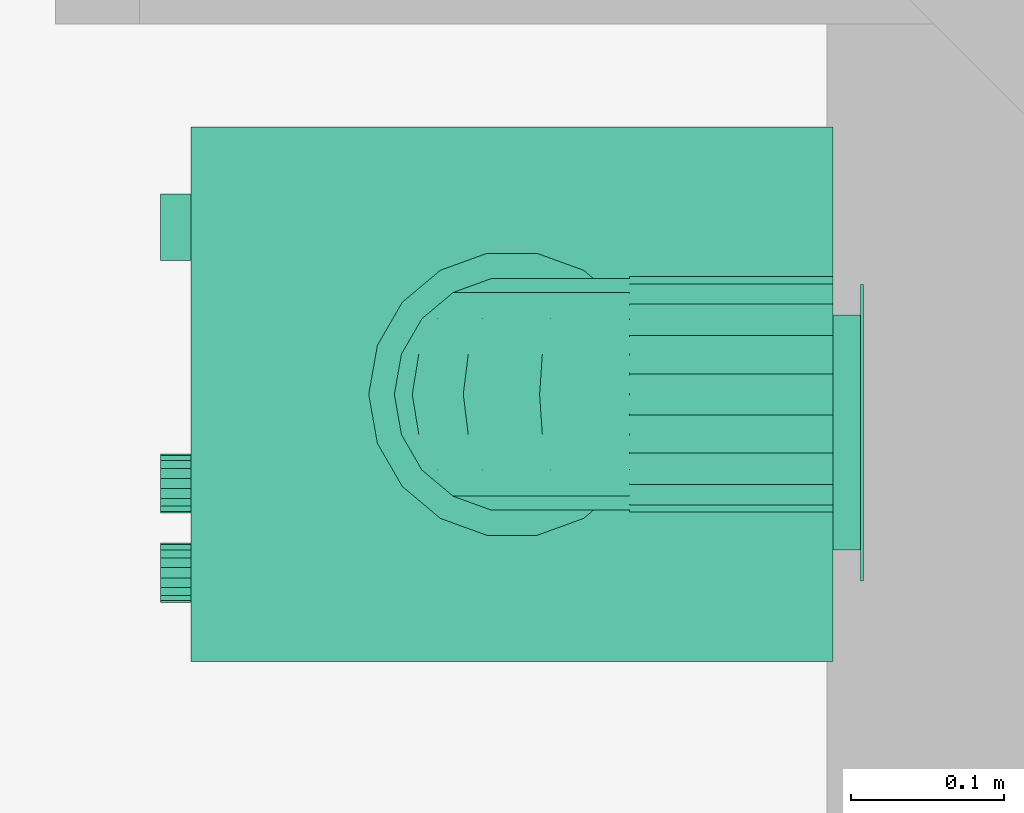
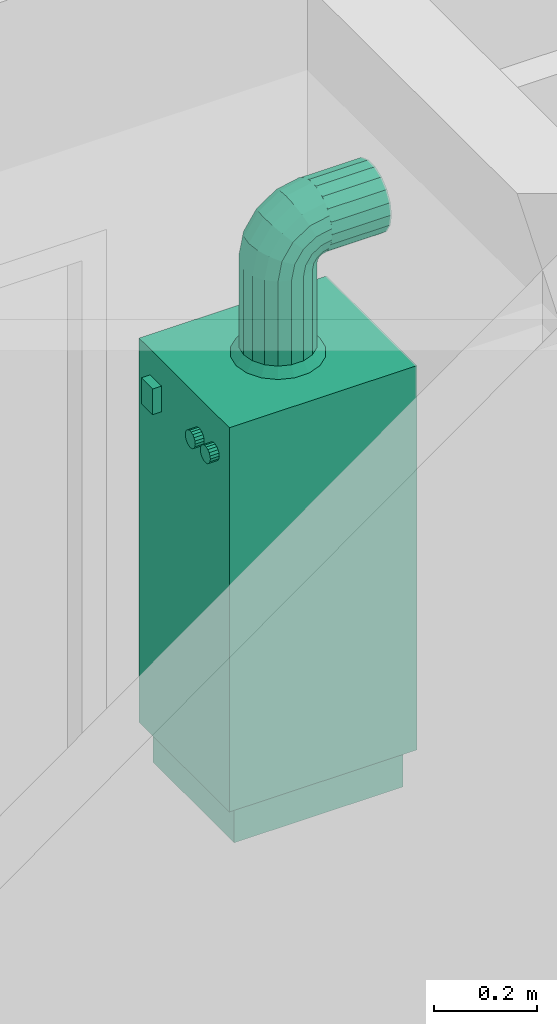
# One storey, part 109 of 164: 1 distribution element.
"""IFC2X3 building model written with IfcOpenShell, lengths in millimetres."""

from ifc_helpers import new_model, entity, si_unit, converted_unit, derived_unit, money_unit, direction, frame, origin_with_axes, place, context, subcontext, project, spatial, open_shell, faceted_brep, surface_model, source, transform, mapped, type_object, element, save


model = new_model("IFC2X3")

# Units and contexts
model_context = context("Model", 3, precision=0.01, world=origin_with_axes(), true_north=direction((0.0, 1.0)))
body_context = subcontext(model_context, "Body", "Model", "MODEL_VIEW")
ifc_project = project(units=[si_unit("LENGTHUNIT", "METRE", prefix="MILLI"), si_unit("AREAUNIT", "SQUARE_METRE"), si_unit("VOLUMEUNIT", "CUBIC_METRE"), converted_unit("PLANEANGLEUNIT", "DEGREE", entity("IfcPlaneAngleMeasure", 0.0174532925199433), si_unit("PLANEANGLEUNIT", "RADIAN"), dimensions=[0, 0, 0, 0, 0, 0, 0]), money_unit("USD"), converted_unit("TIMEUNIT", "Year", entity("IfcTimeMeasure", 31557600.0), si_unit("TIMEUNIT", "SECOND"), dimensions=[0, 0, 1, 0, 0, 0, 0]), si_unit("MASSUNIT", "GRAM", prefix="KILO"), si_unit("THERMODYNAMICTEMPERATUREUNIT", "DEGREE_CELSIUS"), si_unit("LUMINOUSINTENSITYUNIT", "LUMEN"), si_unit("ENERGYUNIT", "JOULE", prefix="MEGA"), derived_unit("THERMALCONDUCTANCEUNIT", [(si_unit("POWERUNIT", "WATT"), 1), (si_unit("LENGTHUNIT", "METRE"), -1), (si_unit("THERMODYNAMICTEMPERATUREUNIT", "KELVIN"), -1)]), derived_unit("SPECIFICHEATCAPACITYUNIT", [(si_unit("ENERGYUNIT", "JOULE"), 1), (si_unit("MASSUNIT", "GRAM", prefix="KILO"), -1), (si_unit("THERMODYNAMICTEMPERATUREUNIT", "KELVIN"), -1)]), derived_unit("MASSDENSITYUNIT", [(si_unit("MASSUNIT", "GRAM", prefix="KILO"), 1), (si_unit("VOLUMEUNIT", "CUBIC_METRE"), -1)])], contexts=[model_context])

# Site, building, storey
site_placement = place(None, origin_with_axes())
site = spatial("IfcSite", under=ifc_project, at=site_placement, Name="Site", CompositionType="ELEMENT")
building_placement = place(site_placement, origin_with_axes())
building = spatial("IfcBuilding", under=site, at=building_placement, Name="Bâtiment", CompositionType="ELEMENT")
storey_placement = place(building_placement, frame((0.0, 0.0, 5750.0), z_axis=(0.0, 0.0, 1.0), x_axis=(1.0, 0.0, 0.0)))
storey = spatial("IfcBuildingStorey", under=building, at=storey_placement, Name="Etage1", CompositionType="ELEMENT", Elevation=5750.0)

# Distribution element
distribution_element_type = type_object("IfcDistributionElementType", Name="Chaudière à gaz 27")
shared_shape = source(origin_with_axes(), body_context, "Body", "SurfaceModel", [
    surface_model("IfcShellBasedSurfaceModel", [(200.0, 420.0, 34.90909090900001), (180.0709335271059, 420.0, 37.53280228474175), (180.0709335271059, 438.0, 37.53280228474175), (200.0, 438.0, 34.90909090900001), (161.5, 420.0, 45.22513481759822), (161.5, 438.0, 45.22513481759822), (219.9290664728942, 420.0, 37.53280228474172), (219.9290664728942, 438.0, 37.53280228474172), (145.5527778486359, 420.0, 57.46186875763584), (145.5527778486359, 438.0, 57.46186875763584), (238.5000000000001, 420.0, 45.22513481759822), (238.5000000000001, 438.0, 45.22513481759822), (133.3160439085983, 420.0, 73.409090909), (133.3160439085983, 438.0, 73.409090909), (254.4472221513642, 420.0, 57.46186875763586), (254.4472221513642, 438.0, 57.46186875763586), (125.6237113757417, 420.0, 91.9800244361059), (125.6237113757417, 438.0, 91.9800244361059), (266.6839560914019, 420.0, 73.40909090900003), (266.6839560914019, 438.0, 73.40909090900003), (123.0, 420.0, 111.909090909), (123.0, 438.0, 111.909090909), (274.3762886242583, 420.0, 91.98002443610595), (274.3762886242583, 438.0, 91.98002443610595), (125.6237113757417, 420.0, 131.8381573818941), (125.6237113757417, 438.0, 131.8381573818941), (277.0, 420.0, 111.909090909), (277.0, 438.0, 111.909090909), (133.3160439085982, 420.0, 150.409090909), (133.3160439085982, 438.0, 150.409090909), (274.3762886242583, 420.0, 131.8381573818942), (274.3762886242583, 438.0, 131.8381573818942), (145.5527778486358, 420.0, 166.3563130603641), (145.5527778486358, 438.0, 166.3563130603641), (266.6839560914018, 420.0, 150.4090909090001), (266.6839560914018, 438.0, 150.4090909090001), (161.5, 420.0, 178.5930470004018), (161.5, 438.0, 178.5930470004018), (254.4472221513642, 420.0, 166.3563130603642), (254.4472221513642, 438.0, 166.3563130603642), (180.0709335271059, 420.0, 186.2853795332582), (180.0709335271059, 438.0, 186.2853795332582), (238.5, 420.0, 178.5930470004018), (238.5, 438.0, 178.5930470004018), (200.0, 420.0, 188.909090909), (200.0, 438.0, 188.909090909), (219.929066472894, 420.0, 186.2853795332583), (219.929066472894, 438.0, 186.2853795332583)], [open_shell([[[0, 1, 2, 3]], [[1, 4, 5, 2]], [[6, 0, 3, 7]], [[4, 8, 9, 5]], [[10, 6, 7, 11]], [[8, 12, 13, 9]], [[14, 10, 11, 15]], [[12, 16, 17, 13]], [[18, 14, 15, 19]], [[16, 20, 21, 17]], [[22, 18, 19, 23]], [[20, 24, 25, 21]], [[26, 22, 23, 27]], [[24, 28, 29, 25]], [[30, 26, 27, 31]], [[28, 32, 33, 29]], [[34, 30, 31, 35]], [[32, 36, 37, 33]], [[38, 34, 35, 39]], [[36, 40, 41, 37]], [[42, 38, 39, 43]], [[40, 44, 45, 41]], [[46, 42, 43, 47]], [[44, 46, 47, 45]]])]),
    faceted_brep([(200.0, 438.0, 14.909090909), (174.8945526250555, 438.0, 18.21428575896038), (174.8945526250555, 440.0, 18.21428575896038), (200.0, 440.0, 14.909090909), (225.1054473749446, 438.0, 18.21428575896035), (248.5000000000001, 438.0, 27.90462674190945), (268.5893577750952, 438.0, 43.31973313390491), (284.0044641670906, 438.0, 63.40909090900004), (293.6948051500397, 438.0, 86.80364353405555), (297.0000000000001, 438.0, 111.909090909), (293.6948051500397, 438.0, 137.0145382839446), (284.0044641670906, 438.0, 160.4090909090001), (268.5893577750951, 438.0, 180.4984486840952), (248.5, 438.0, 195.9135550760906), (225.1054473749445, 438.0, 205.6038960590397), (199.9999999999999, 438.0, 208.909090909), (174.8945526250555, 438.0, 205.6038960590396), (151.5, 438.0, 195.9135550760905), (131.4106422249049, 438.0, 180.4984486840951), (115.9955358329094, 438.0, 160.409090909), (106.3051948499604, 438.0, 137.0145382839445), (103.0, 438.0, 111.909090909), (106.3051948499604, 438.0, 86.80364353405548), (115.9955358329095, 438.0, 63.40909090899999), (131.4106422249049, 438.0, 43.31973313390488), (151.5, 438.0, 27.90462674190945), (200.0, 438.0, 34.90909090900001), (180.0709335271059, 438.0, 37.53280228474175), (161.5, 438.0, 45.22513481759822), (145.5527778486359, 438.0, 57.46186875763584), (133.3160439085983, 438.0, 73.409090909), (125.6237113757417, 438.0, 91.9800244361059), (123.0, 438.0, 111.909090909), (125.6237113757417, 438.0, 131.8381573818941), (133.3160439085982, 438.0, 150.409090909), (145.5527778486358, 438.0, 166.3563130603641), (161.5, 438.0, 178.5930470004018), (180.0709335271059, 438.0, 186.2853795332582), (200.0, 438.0, 188.909090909), (219.929066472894, 438.0, 186.2853795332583), (238.5, 438.0, 178.5930470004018), (254.4472221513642, 438.0, 166.3563130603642), (266.6839560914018, 438.0, 150.4090909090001), (274.3762886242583, 438.0, 131.8381573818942), (277.0, 438.0, 111.909090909), (274.3762886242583, 438.0, 91.98002443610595), (266.6839560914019, 438.0, 73.40909090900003), (254.4472221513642, 438.0, 57.46186875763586), (238.5000000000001, 438.0, 45.22513481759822), (219.9290664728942, 438.0, 37.53280228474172), (151.5, 440.0, 27.90462674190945), (131.4106422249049, 440.0, 43.31973313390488), (115.9955358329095, 440.0, 63.40909090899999), (106.3051948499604, 440.0, 86.80364353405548), (103.0, 440.0, 111.909090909), (106.3051948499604, 440.0, 137.0145382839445), (115.9955358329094, 440.0, 160.409090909), (131.4106422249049, 440.0, 180.4984486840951), (151.5, 440.0, 195.9135550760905), (174.8945526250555, 440.0, 205.6038960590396), (199.9999999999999, 440.0, 208.909090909), (225.1054473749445, 440.0, 205.6038960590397), (248.5, 440.0, 195.9135550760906), (268.5893577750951, 440.0, 180.4984486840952), (284.0044641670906, 440.0, 160.4090909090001), (293.6948051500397, 440.0, 137.0145382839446), (297.0000000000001, 440.0, 111.909090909), (293.6948051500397, 440.0, 86.80364353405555), (284.0044641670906, 440.0, 63.40909090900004), (268.5893577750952, 440.0, 43.31973313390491), (248.5000000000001, 440.0, 27.90462674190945), (225.1054473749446, 440.0, 18.21428575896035), (200.0, 440.0, 34.90909090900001), (219.9290664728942, 440.0, 37.53280228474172), (238.5000000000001, 440.0, 45.22513481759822), (254.4472221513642, 440.0, 57.46186875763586), (266.6839560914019, 440.0, 73.40909090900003), (274.3762886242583, 440.0, 91.98002443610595), (277.0, 440.0, 111.909090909), (274.3762886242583, 440.0, 131.8381573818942), (266.6839560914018, 440.0, 150.4090909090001), (254.4472221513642, 440.0, 166.3563130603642), (238.5, 440.0, 178.5930470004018), (219.929066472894, 440.0, 186.2853795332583), (200.0, 440.0, 188.909090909), (180.0709335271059, 440.0, 186.2853795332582), (161.5, 440.0, 178.5930470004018), (145.5527778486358, 440.0, 166.3563130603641), (133.3160439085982, 440.0, 150.409090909), (125.6237113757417, 440.0, 131.8381573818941), (123.0, 440.0, 111.909090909), (125.6237113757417, 440.0, 91.9800244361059), (133.3160439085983, 440.0, 73.409090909), (145.5527778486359, 440.0, 57.46186875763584), (161.5, 440.0, 45.22513481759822), (180.0709335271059, 440.0, 37.53280228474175)], [[[0, 1, 2, 3]], [[0, 4, 5, 6, 7, 8, 9, 10, 11, 12, 13, 14, 15, 16, 17, 18, 19, 20, 21, 22, 23, 24, 25, 1], [26, 27, 28, 29, 30, 31, 32, 33, 34, 35, 36, 37, 38, 39, 40, 41, 42, 43, 44, 45, 46, 47, 48, 49]], [[1, 25, 50, 2]], [[3, 2, 50, 51, 52, 53, 54, 55, 56, 57, 58, 59, 60, 61, 62, 63, 64, 65, 66, 67, 68, 69, 70, 71], [72, 73, 74, 75, 76, 77, 78, 79, 80, 81, 82, 83, 84, 85, 86, 87, 88, 89, 90, 91, 92, 93, 94, 95]], [[4, 0, 3, 71]], [[5, 4, 71, 70]], [[6, 5, 70, 69]], [[7, 6, 69, 68]], [[8, 7, 68, 67]], [[9, 8, 67, 66]], [[10, 9, 66, 65]], [[11, 10, 65, 64]], [[12, 11, 64, 63]], [[13, 12, 63, 62]], [[14, 13, 62, 61]], [[15, 14, 61, 60]], [[16, 15, 60, 59]], [[17, 16, 59, 58]], [[18, 17, 58, 57]], [[19, 18, 57, 56]], [[20, 19, 56, 55]], [[21, 20, 55, 54]], [[22, 21, 54, 53]], [[23, 22, 53, 52]], [[24, 23, 52, 51]], [[25, 24, 51, 50]], [[27, 26, 72, 95]], [[28, 27, 95, 94]], [[29, 28, 94, 93]], [[30, 29, 93, 92]], [[31, 30, 92, 91]], [[32, 31, 91, 90]], [[33, 32, 90, 89]], [[34, 33, 89, 88]], [[35, 34, 88, 87]], [[36, 35, 87, 86]], [[37, 36, 86, 85]], [[38, 37, 85, 84]], [[39, 38, 84, 83]], [[40, 39, 83, 82]], [[41, 40, 82, 81]], [[42, 41, 81, 80]], [[43, 42, 80, 79]], [[44, 43, 79, 78]], [[45, 44, 78, 77]], [[46, 45, 77, 76]], [[47, 46, 76, 75]], [[48, 47, 75, 74]], [[49, 48, 74, 73]], [[26, 49, 73, 72]]]),
    faceted_brep([(332.5, 21.0, 0.0), (17.5, 21.0, 0.0), (17.5, 399.0, 0.0), (332.5, 399.0, 0.0), (332.5, 21.0, 90.9090909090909), (17.5, 21.0, 90.9090909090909), (17.5, 399.0, 90.9090909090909), (332.5, 399.0, 90.9090909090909)], [[[0, 1, 2, 3]], [[1, 0, 4, 5]], [[2, 1, 5, 6]], [[3, 2, 6, 7]], [[0, 3, 7, 4]], [[5, 4, 7, 6]]]),
    faceted_brep([(0.0, 420.0, 90.9090909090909), (0.0, 420.0, 1000.0), (349.9999999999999, 420.0, 1000.0), (350.0, 420.0, 90.90909090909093), (0.0, 0.0, 90.9090909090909), (0.0, 0.0, 818.1818181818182), (0.0, 21.0, 818.1818181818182), (0.0, 21.0, 1000.0), (349.9999999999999, 21.0, 1000.0), (349.9999999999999, 21.0, 818.1818181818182), (349.9999999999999, 0.0, 818.1818181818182), (350.0, 0.0, 90.90909090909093)], [[[0, 1, 2, 3]], [[0, 4, 5, 6, 7, 1]], [[1, 7, 8, 2]], [[3, 2, 8, 9, 10, 11]], [[4, 0, 3, 11]], [[5, 4, 11, 10]], [[6, 5, 10, 9]], [[7, 6, 9, 8]]]),
    faceted_brep([(350.0, 0.0, 818.1818181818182), (0.0, 0.0, 818.1818181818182), (0.0, 21.0, 818.1818181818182), (350.0, 21.0, 818.1818181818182), (350.0, 0.0, 1000.0), (0.0, 0.0, 1000.0), (0.0, 21.0, 1000.0), (350.0, 21.0, 1000.0)], [[[0, 1, 2, 3]], [[1, 0, 4, 5]], [[2, 1, 5, 6]], [[3, 2, 6, 7]], [[0, 3, 7, 4]], [[5, 4, 7, 6]]]),
    faceted_brep([(251.6051342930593, 0.0, 902.4405174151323), (248.2286419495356, 0.0, 896.592261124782), (243.0555555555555, 0.0, 892.2515262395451), (236.709825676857, 0.0, 889.9418694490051), (229.9568409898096, 0.0, 889.9418694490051), (223.6111111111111, 0.0, 892.2515262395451), (218.438024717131, 0.0, 896.5922611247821), (215.0615323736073, 0.0, 902.4405174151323), (213.8888888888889, 0.0, 909.0909090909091), (215.0615323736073, 0.0, 915.741300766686), (218.438024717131, 0.0, 921.5895570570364), (223.6111111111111, 0.0, 925.9302919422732), (229.9568409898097, 0.0, 928.2399487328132), (236.709825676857, 0.0, 928.2399487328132), (243.0555555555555, 0.0, 925.9302919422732), (248.2286419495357, 0.0, 921.5895570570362), (251.6051342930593, 0.0, 915.741300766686), (252.7777777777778, 0.0, 909.0909090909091), (251.6051342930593, -19.99999999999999, 902.4405174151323), (248.2286419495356, -19.99999999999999, 896.592261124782), (243.0555555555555, -19.99999999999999, 892.2515262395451), (236.709825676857, -19.99999999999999, 889.9418694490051), (229.9568409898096, -19.99999999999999, 889.9418694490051), (223.6111111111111, -19.99999999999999, 892.2515262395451), (218.438024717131, -19.99999999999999, 896.5922611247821), (215.0615323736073, -19.99999999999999, 902.4405174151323), (213.8888888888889, -19.99999999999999, 909.0909090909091), (215.0615323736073, -19.99999999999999, 915.741300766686), (218.438024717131, -19.99999999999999, 921.5895570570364), (223.6111111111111, -19.99999999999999, 925.9302919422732), (229.9568409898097, -19.99999999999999, 928.2399487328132), (236.709825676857, -19.99999999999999, 928.2399487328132), (243.0555555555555, -19.99999999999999, 925.9302919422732), (248.2286419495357, -19.99999999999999, 921.5895570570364), (251.6051342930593, -19.99999999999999, 915.741300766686), (252.7777777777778, -19.99999999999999, 909.0909090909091)], [[[0, 1, 2, 3, 4, 5, 6, 7, 8, 9, 10, 11, 12, 13, 14, 15, 16, 17]], [[1, 0, 18, 19]], [[2, 1, 19, 20]], [[3, 2, 20, 21]], [[4, 3, 21, 22]], [[5, 4, 22, 23]], [[6, 5, 23, 24]], [[7, 6, 24, 25]], [[8, 7, 25, 26]], [[9, 8, 26, 27]], [[10, 9, 27, 28]], [[11, 10, 28, 29]], [[12, 11, 29, 30]], [[13, 12, 30, 31]], [[14, 13, 31, 32]], [[15, 14, 32, 33]], [[16, 15, 33, 34]], [[17, 16, 34, 35]], [[0, 17, 35, 18]], [[18, 35, 34, 33, 32, 31, 30, 29, 28, 27, 26, 25, 24, 23, 22, 21, 20, 19]]]),
    faceted_brep([(309.9384676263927, 0.0, 902.4405174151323), (306.561975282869, 0.0, 896.592261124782), (301.3888888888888, 0.0, 892.2515262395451), (295.0431590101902, 0.0, 889.9418694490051), (288.290174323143, 0.0, 889.9418694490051), (281.9444444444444, 0.0, 892.2515262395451), (276.7713580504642, 0.0, 896.5922611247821), (273.3948657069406, 0.0, 902.4405174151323), (272.2222222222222, 0.0, 909.0909090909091), (273.3948657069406, 0.0, 915.741300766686), (276.7713580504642, 0.0, 921.5895570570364), (281.9444444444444, 0.0, 925.9302919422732), (288.290174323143, 0.0, 928.2399487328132), (295.0431590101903, 0.0, 928.2399487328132), (301.3888888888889, 0.0, 925.9302919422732), (306.561975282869, 0.0, 921.5895570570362), (309.9384676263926, 0.0, 915.741300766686), (311.1111111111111, 0.0, 909.0909090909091), (309.9384676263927, -19.99999999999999, 902.4405174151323), (306.561975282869, -19.99999999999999, 896.592261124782), (301.3888888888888, -19.99999999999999, 892.2515262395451), (295.0431590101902, -19.99999999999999, 889.9418694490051), (288.290174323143, -19.99999999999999, 889.9418694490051), (281.9444444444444, -19.99999999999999, 892.2515262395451), (276.7713580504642, -19.99999999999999, 896.5922611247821), (273.3948657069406, -19.99999999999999, 902.4405174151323), (272.2222222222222, -19.99999999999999, 909.0909090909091), (273.3948657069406, -19.99999999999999, 915.741300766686), (276.7713580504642, -19.99999999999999, 921.5895570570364), (281.9444444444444, -19.99999999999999, 925.9302919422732), (288.290174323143, -19.99999999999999, 928.2399487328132), (295.0431590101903, -19.99999999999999, 928.2399487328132), (301.3888888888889, -19.99999999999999, 925.9302919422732), (306.561975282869, -19.99999999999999, 921.5895570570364), (309.9384676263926, -19.99999999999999, 915.741300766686), (311.1111111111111, -19.99999999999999, 909.0909090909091)], [[[0, 1, 2, 3, 4, 5, 6, 7, 8, 9, 10, 11, 12, 13, 14, 15, 16, 17]], [[1, 0, 18, 19]], [[2, 1, 19, 20]], [[3, 2, 20, 21]], [[4, 3, 21, 22]], [[5, 4, 22, 23]], [[6, 5, 23, 24]], [[7, 6, 24, 25]], [[8, 7, 25, 26]], [[9, 8, 26, 27]], [[10, 9, 27, 28]], [[11, 10, 28, 29]], [[12, 11, 29, 30]], [[13, 12, 30, 31]], [[14, 13, 31, 32]], [[15, 14, 32, 33]], [[16, 15, 33, 34]], [[17, 16, 34, 35]], [[0, 17, 35, 18]], [[18, 35, 34, 33, 32, 31, 30, 29, 28, 27, 26, 25, 24, 23, 22, 21, 20, 19]]]),
    faceted_brep([(87.5, 0.0, 878.7878787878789), (43.75, 0.0, 878.7878787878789), (43.75, 0.0, 939.3939393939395), (87.5, 0.0, 939.3939393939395), (87.5, -20.0, 878.7878787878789), (43.75, -20.0, 878.7878787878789), (43.75, -19.99999999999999, 939.3939393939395), (87.5, -19.99999999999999, 939.3939393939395)], [[[0, 1, 2, 3]], [[1, 0, 4, 5]], [[2, 1, 5, 6]], [[3, 2, 6, 7]], [[0, 3, 7, 4]], [[5, 4, 7, 6]]]),
    surface_model("IfcShellBasedSurfaceModel", [(148.6644489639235, 282.356331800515, 1220.0), (175.0, 287.0, 1220.0), (175.0, 287.0, 1020.0), (148.6644489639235, 282.356331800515, 1020.0), (201.3355510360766, 282.356331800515, 1220.0), (201.3355510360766, 282.356331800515, 1020.0), (175.0, 303.7499999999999, 1000.0), (142.9356115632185, 298.0961831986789, 1000.0), (125.5053540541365, 268.9854221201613, 1220.0), (125.5053540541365, 268.9854221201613, 1020.0), (224.4946459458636, 268.9854221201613, 1220.0), (224.4946459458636, 268.9854221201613, 1020.0), (207.0643884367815, 298.0961831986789, 1000.0), (114.7386615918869, 281.8166665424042, 1000.0), (108.3160439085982, 248.5, 1220.0), (108.3160439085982, 248.5, 1020.0), (241.6839560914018, 248.4999999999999, 1220.0), (241.6839560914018, 248.4999999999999, 1020.0), (235.2613384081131, 281.8166665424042, 1000.0), (93.81011839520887, 256.8749999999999, 1000.0), (99.16980301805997, 223.3709096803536, 1220.0), (99.16980301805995, 223.3709096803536, 1020.0), (250.8301969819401, 223.3709096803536, 1220.0), (250.83019698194, 223.3709096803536, 1020.0), (256.1898816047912, 256.8749999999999, 1000.0), (82.6742731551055, 226.2795166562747, 1000.0), (99.16980301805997, 196.6290903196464, 1220.0), (99.16980301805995, 196.6290903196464, 1020.0), (250.83019698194, 196.6290903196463, 1220.0), (250.83019698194, 196.6290903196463, 1020.0), (267.3257268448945, 226.2795166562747, 1000.0), (82.67427315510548, 193.7204833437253, 1000.0), (108.3160439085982, 171.5, 1220.0), (108.3160439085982, 171.5, 1020.0), (241.6839560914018, 171.4999999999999, 1220.0), (241.6839560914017, 171.4999999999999, 1020.0), (267.3257268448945, 193.7204833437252, 1000.0), (93.81011839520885, 163.125, 1000.0), (125.5053540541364, 151.0145778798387, 1220.0), (125.5053540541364, 151.0145778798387, 1020.0), (224.4946459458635, 151.0145778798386, 1220.0), (224.4946459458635, 151.0145778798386, 1020.0), (256.1898816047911, 163.1249999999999, 1000.0), (114.7386615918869, 138.1833334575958, 1000.0), (148.6644489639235, 137.643668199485, 1220.0), (148.6644489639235, 137.643668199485, 1020.0), (201.3355510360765, 137.643668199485, 1220.0), (201.3355510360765, 137.643668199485, 1020.0), (235.261338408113, 138.1833334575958, 1000.0), (142.9356115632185, 121.9038168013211, 1000.0), (175.0, 133.0, 1220.0), (175.0, 133.0, 1020.0), (207.0643884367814, 121.9038168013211, 1000.0), (175.0, 116.25, 1000.0)], [open_shell([[[0, 1, 2, 3]], [[1, 4, 5, 2]], [[3, 2, 6, 7]], [[8, 0, 3, 9]], [[4, 10, 11, 5]], [[2, 5, 12, 6]], [[9, 3, 7, 13]], [[14, 8, 9, 15]], [[10, 16, 17, 11]], [[5, 11, 18, 12]], [[15, 9, 13, 19]], [[20, 14, 15, 21]], [[16, 22, 23, 17]], [[11, 17, 24, 18]], [[21, 15, 19, 25]], [[26, 20, 21, 27]], [[22, 28, 29, 23]], [[17, 23, 30, 24]], [[27, 21, 25, 31]], [[32, 26, 27, 33]], [[28, 34, 35, 29]], [[23, 29, 36, 30]], [[33, 27, 31, 37]], [[38, 32, 33, 39]], [[34, 40, 41, 35]], [[29, 35, 42, 36]], [[39, 33, 37, 43]], [[44, 38, 39, 45]], [[40, 46, 47, 41]], [[35, 41, 48, 42]], [[45, 39, 43, 49]], [[50, 44, 45, 51]], [[46, 50, 51, 47]], [[41, 47, 52, 48]], [[51, 45, 49, 53]], [[47, 51, 53, 52]]])]),
    faceted_brep([(99.16980301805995, 203.5081662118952, 1254.583449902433), (99.16980301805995, 196.6290903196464, 1220.0), (108.3160439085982, 171.5, 1220.0), (108.3160439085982, 180.2919139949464, 1264.199936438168), (99.16980301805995, 228.2143857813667, 1244.349798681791), (99.16980301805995, 223.3709096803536, 1220.0), (108.3160439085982, 248.5, 1220.0), (125.5053540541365, 268.9854221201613, 1220.0), (148.6644489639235, 282.356331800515, 1220.0), (175.0, 287.0, 1220.0), (201.3355510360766, 282.356331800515, 1220.0), (224.4946459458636, 268.9854221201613, 1220.0), (241.6839560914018, 248.4999999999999, 1220.0), (250.83019698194, 223.3709096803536, 1220.0), (250.83019698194, 196.6290903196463, 1220.0), (241.6839560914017, 171.4999999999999, 1220.0), (224.4946459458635, 151.0145778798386, 1220.0), (201.3355510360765, 137.643668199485, 1220.0), (175.0, 132.9999999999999, 1220.0), (148.6644489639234, 137.643668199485, 1220.0), (125.5053540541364, 151.0145778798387, 1220.0), (125.5053540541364, 161.3658517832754, 1272.039368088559), (99.16980301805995, 223.098116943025, 1283.901883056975), (108.3160439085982, 205.3291667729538, 1301.670833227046), (99.16980301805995, 242.0074387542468, 1264.992561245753), (108.3160439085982, 251.4306379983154, 1234.733312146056), (125.5053540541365, 270.3567002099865, 1226.893880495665), (148.6644489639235, 282.7098099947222, 1221.777054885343), (201.3355510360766, 282.7098099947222, 1221.777054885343), (224.4946459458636, 270.3567002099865, 1226.893880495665), (241.6839560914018, 251.4306379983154, 1234.733312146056), (250.83019698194, 228.2143857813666, 1244.349798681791), (250.83019698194, 203.5081662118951, 1254.583449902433), (241.6839560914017, 180.2919139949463, 1264.199936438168), (224.4946459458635, 161.3658517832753, 1272.039368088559), (201.3355510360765, 149.0127419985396, 1277.15619369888), (175.0, 144.7225519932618, 1278.933248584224), (148.6644489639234, 149.0127419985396, 1277.15619369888), (125.5053540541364, 190.8437858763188, 1316.156214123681), (108.3160439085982, 242.8000635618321, 1326.708086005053), (99.16980301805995, 252.4165500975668, 1303.491833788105), (99.16980301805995, 262.6502013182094, 1278.785614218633), (108.3160439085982, 259.7763889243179, 1247.223611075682), (125.5053540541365, 274.2617698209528, 1232.738230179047), (148.6644489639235, 283.7164307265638, 1223.283569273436), (201.3355510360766, 283.7164307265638, 1223.283569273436), (224.4946459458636, 274.2617698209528, 1232.738230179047), (241.6839560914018, 259.7763889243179, 1247.223611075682), (250.83019698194, 242.0074387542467, 1264.992561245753), (250.83019698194, 223.0981169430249, 1283.901883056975), (241.6839560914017, 205.3291667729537, 1301.670833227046), (224.4946459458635, 190.8437858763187, 1316.156214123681), (201.3355510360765, 181.3891249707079, 1325.610875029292), (175.0, 178.1055556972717, 1328.894444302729), (148.6644489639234, 181.3891249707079, 1325.610875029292), (125.5053540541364, 234.9606319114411, 1345.634148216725), (108.3160439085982, 287.0000000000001, 1335.5), (99.16980301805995, 287.0000000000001, 1310.370909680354), (99.16980301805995, 287.0000000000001, 1283.629090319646), (108.3160439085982, 272.266687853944, 1255.569362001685), (125.5053540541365, 280.1061195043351, 1236.643299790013), (148.6644489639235, 285.2229451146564, 1224.290190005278), (201.3355510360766, 285.2229451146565, 1224.290190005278), (224.4946459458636, 280.1061195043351, 1236.643299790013), (241.6839560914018, 272.266687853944, 1255.569362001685), (250.83019698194, 262.6502013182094, 1278.785614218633), (250.83019698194, 252.4165500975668, 1303.491833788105), (241.6839560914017, 242.8000635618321, 1326.708086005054), (224.4946459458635, 234.9606319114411, 1345.634148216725), (201.3355510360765, 229.8438063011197, 1357.98725800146), (175.0, 228.0667514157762, 1362.277448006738), (148.6644489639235, 229.8438063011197, 1357.98725800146), (125.5053540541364, 287.0000000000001, 1355.985422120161), (108.3160439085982, 287.0, 1258.5), (148.6644489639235, 287.0000000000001, 1369.356331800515), (175.0, 287.0000000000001, 1374.0), (201.3355510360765, 287.0000000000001, 1369.356331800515), (224.4946459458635, 287.0000000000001, 1355.985422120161), (241.6839560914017, 287.0000000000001, 1335.5), (250.83019698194, 287.0000000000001, 1310.370909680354), (250.83019698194, 287.0000000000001, 1283.629090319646), (241.6839560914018, 287.0, 1258.5), (224.4946459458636, 287.0, 1238.014577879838), (201.3355510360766, 287.0, 1224.643668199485), (148.6644489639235, 287.0, 1224.643668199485), (125.5053540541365, 287.0, 1238.014577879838)], [[[0, 1, 2, 3]], [[1, 0, 4, 5]], [[2, 1, 5, 6, 7, 8, 9, 10, 11, 12, 13, 14, 15, 16, 17, 18, 19, 20]], [[3, 2, 20, 21]], [[22, 0, 3, 23]], [[0, 22, 24, 4]], [[6, 5, 4, 25]], [[26, 7, 6, 25]], [[7, 26, 27, 8]], [[8, 27, 9]], [[28, 10, 9]], [[10, 28, 29, 11]], [[11, 29, 30, 12]], [[31, 13, 12, 30]], [[14, 13, 31, 32]], [[33, 15, 14, 32]], [[15, 33, 34, 16]], [[35, 17, 16, 34]], [[36, 18, 17, 35]], [[19, 18, 36, 37]], [[21, 20, 19, 37]], [[23, 3, 21, 38]], [[22, 23, 39, 40]], [[24, 22, 40, 41]], [[4, 24, 42, 25]], [[43, 26, 25, 42]], [[26, 43, 44, 27]], [[27, 44, 9]], [[45, 28, 9]], [[28, 45, 46, 29]], [[29, 46, 47, 30]], [[31, 30, 47, 48]], [[49, 32, 31, 48]], [[32, 49, 50, 33]], [[51, 34, 33, 50]], [[35, 34, 51, 52]], [[53, 36, 35, 52]], [[54, 37, 36, 53]], [[38, 21, 37, 54]], [[39, 23, 38, 55]], [[40, 39, 56, 57]], [[41, 40, 57, 58]], [[59, 42, 24, 41]], [[42, 59, 60, 43]], [[43, 60, 61, 44]], [[44, 61, 9]], [[62, 45, 9]], [[45, 62, 63, 46]], [[46, 63, 64, 47]], [[65, 48, 47, 64]], [[66, 49, 48, 65]], [[50, 49, 66, 67]], [[68, 51, 50, 67]], [[52, 51, 68, 69]], [[53, 52, 69, 70]], [[71, 54, 53, 70]], [[55, 38, 54, 71]], [[56, 39, 55, 72]], [[73, 58, 57, 56, 72, 74, 75, 76, 77, 78, 79, 80, 81, 82, 83, 9, 84, 85]], [[59, 41, 58, 73]], [[59, 73, 85, 60]], [[60, 85, 84, 61]], [[61, 84, 9]], [[62, 9, 83]], [[63, 62, 83, 82]], [[63, 82, 81, 64]], [[65, 64, 81, 80]], [[66, 65, 80, 79]], [[67, 66, 79, 78]], [[77, 68, 67, 78]], [[68, 77, 76, 69]], [[70, 69, 76, 75]], [[74, 71, 70, 75]], [[72, 55, 71, 74]]]),
    surface_model("IfcShellBasedSurfaceModel", [(102.6436681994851, 420.0, 1323.335551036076), (98.0, 420.0, 1297.0), (97.99999999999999, 287.0, 1297.0), (102.643668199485, 287.0, 1323.335551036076), (102.643668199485, 420.0, 1270.664448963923), (102.643668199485, 287.0, 1270.664448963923), (116.0145778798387, 420.0, 1346.494645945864), (116.0145778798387, 287.0, 1346.494645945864), (116.0145778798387, 420.0, 1247.505354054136), (116.0145778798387, 287.0, 1247.505354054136), (136.5, 420.0, 1363.683956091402), (136.5, 287.0, 1363.683956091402), (136.5, 420.0, 1230.316043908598), (136.5, 287.0, 1230.316043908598), (161.6290903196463, 420.0, 1372.83019698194), (161.6290903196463, 287.0, 1372.83019698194), (161.6290903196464, 420.0, 1221.16980301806), (161.6290903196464, 287.0, 1221.16980301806), (188.3709096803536, 420.0, 1372.83019698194), (188.3709096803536, 287.0, 1372.83019698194), (188.3709096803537, 420.0, 1221.16980301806), (188.3709096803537, 287.0, 1221.16980301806), (213.5, 420.0, 1363.683956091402), (213.5, 287.0, 1363.683956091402), (213.5000000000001, 420.0, 1230.316043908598), (213.5, 287.0, 1230.316043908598), (233.9854221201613, 420.0, 1346.494645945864), (233.9854221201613, 287.0, 1346.494645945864), (233.9854221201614, 420.0, 1247.505354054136), (233.9854221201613, 287.0, 1247.505354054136), (247.356331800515, 420.0, 1323.335551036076), (247.3563318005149, 287.0, 1323.335551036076), (247.356331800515, 420.0, 1270.664448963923), (247.356331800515, 287.0, 1270.664448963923), (252.0, 420.0, 1297.0), (252.0, 287.0, 1297.0)], [open_shell([[[0, 1, 2, 3]], [[1, 4, 5, 2]], [[6, 0, 3, 7]], [[4, 8, 9, 5]], [[10, 6, 7, 11]], [[8, 12, 13, 9]], [[14, 10, 11, 15]], [[12, 16, 17, 13]], [[18, 14, 15, 19]], [[16, 20, 21, 17]], [[22, 18, 19, 23]], [[20, 24, 25, 21]], [[26, 22, 23, 27]], [[24, 28, 29, 25]], [[30, 26, 27, 31]], [[28, 32, 33, 29]], [[34, 30, 31, 35]], [[32, 34, 35, 33]]])]),
])
distribution_element_placement = place(storey_placement, frame((2223316.315938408, -636144.5595592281, 851.9635043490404), z_axis=(0.0, 0.0, 1.0), x_axis=(-2.308104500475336e-07, -0.9999999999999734, 0.0)))
element("IfcDistributionElement", 1, at=distribution_element_placement, inside=storey, type_object=distribution_element_type, Name="Obj.-003", context=body_context, shape_type="MappedRepresentation", body=[
    mapped(shared_shape, transform((0.0, 0.0, 0.0))),
])

save(model, "model.ifc")
